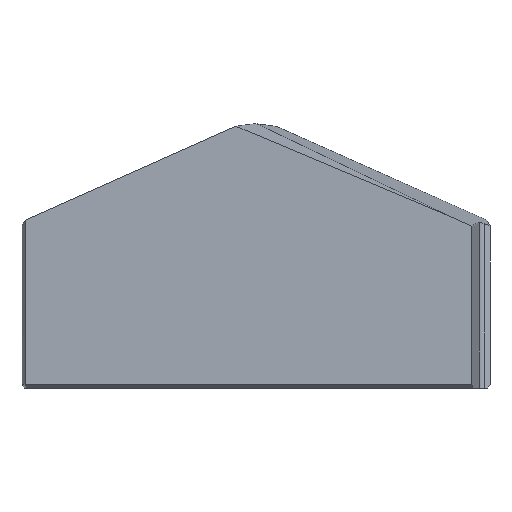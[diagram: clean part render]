
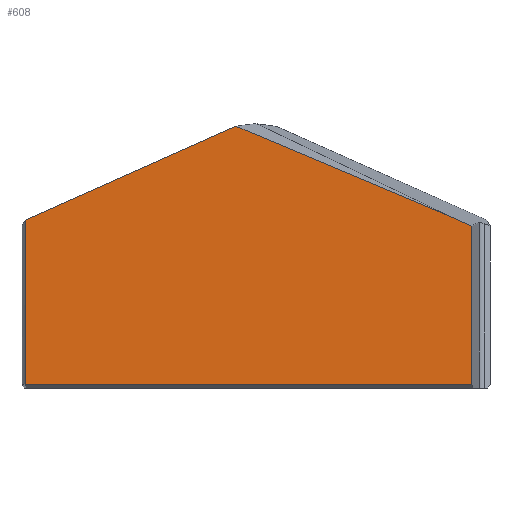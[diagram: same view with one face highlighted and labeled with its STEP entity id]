
A CAD part, top view. The second image highlights one B-rep face of the part: STEP entity #608.
In plain terms, the highlighted planar face has unit normal (0, 0, 1).
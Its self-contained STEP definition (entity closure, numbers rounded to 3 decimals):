
#2 = LINE ( 'NONE', #262, #24 ) ;
#3 = LINE ( 'NONE', #440, #99 ) ;
#5 = ORIENTED_EDGE ( 'NONE', *, *, #302, .T. ) ;
#12 = ORIENTED_EDGE ( 'NONE', *, *, #190, .T. ) ;
#19 = VECTOR ( 'NONE', #31, 1000. ) ;
#22 = VERTEX_POINT ( 'NONE', #493 ) ;
#24 = VECTOR ( 'NONE', #405, 1000. ) ;
#31 = DIRECTION ( 'NONE',  ( -0.922, 0.388, 0. ) ) ;
#40 = CARTESIAN_POINT ( 'NONE',  ( -17.972, 13.088, 6.4 ) ) ;
#46 = EDGE_CURVE ( 'NONE', #22, #73, #202, .T. ) ;
#49 = VECTOR ( 'NONE', #367, 1000. ) ;
#53 = CARTESIAN_POINT ( 'NONE',  ( -17.972, 0.3, 6.4 ) ) ;
#55 = CARTESIAN_POINT ( 'NONE',  ( -17.966, 0.289, 6.4 ) ) ;
#59 = ORIENTED_EDGE ( 'NONE', *, *, #419, .T. ) ;
#73 = VERTEX_POINT ( 'NONE', #40 ) ;
#97 = DIRECTION ( 'NONE',  ( 1., 0., 0. ) ) ;
#99 = VECTOR ( 'NONE', #632, 1000. ) ;
#114 = CARTESIAN_POINT ( 'NONE',  ( 15.004, 13.425, 6.4 ) ) ;
#190 = EDGE_CURVE ( 'NONE', #633, #613, #329, .T. ) ;
#201 = CARTESIAN_POINT ( 'NONE',  ( -17.97, 0.296, 6.4 ) ) ;
#202 = LINE ( 'NONE', #637, #429 ) ;
#210 = CARTESIAN_POINT ( 'NONE',  ( 0., 0., 6.4 ) ) ;
#219 = EDGE_CURVE ( 'NONE', #378, #633, #559, .T. ) ;
#242 = LINE ( 'NONE', #314, #49 ) ;
#248 = EDGE_LOOP ( 'NONE', ( #59, #5, #439, #295, #500, #12, #445 ) ) ;
#262 = CARTESIAN_POINT ( 'NONE',  ( 16.805, 0., 6.4 ) ) ;
#278 = CARTESIAN_POINT ( 'NONE',  ( 16.805, 12.623, 6.4 ) ) ;
#283 = LINE ( 'NONE', #388, #19 ) ;
#286 = CARTESIAN_POINT ( 'NONE',  ( -17.972, 0.3, 6.4 ) ) ;
#295 = ORIENTED_EDGE ( 'NONE', *, *, #560, .F. ) ;
#300 = CARTESIAN_POINT ( 'NONE',  ( 17.796, 0.289, 6.4 ) ) ;
#301 = VECTOR ( 'NONE', #97, 1000. ) ;
#302 = EDGE_CURVE ( 'NONE', #474, #22, #283, .T. ) ;
#311 = DIRECTION ( 'NONE',  ( 0., 0., 1. ) ) ;
#314 = CARTESIAN_POINT ( 'NONE',  ( -17.972, 0., 6.4 ) ) ;
#329 = LINE ( 'NONE', #300, #301 ) ;
#367 = DIRECTION ( 'NONE',  ( 0., 1., 0. ) ) ;
#368 = VERTEX_POINT ( 'NONE', #278 ) ;
#378 = VERTEX_POINT ( 'NONE', #286 ) ;
#388 = CARTESIAN_POINT ( 'NONE',  ( 7.057, 16.769, 6.4 ) ) ;
#401 = DIRECTION ( 'NONE',  ( -0.914, -0.407, 0. ) ) ;
#405 = DIRECTION ( 'NONE',  ( 0., 1., 0. ) ) ;
#419 = EDGE_CURVE ( 'NONE', #368, #474, #3, .T. ) ;
#429 = VECTOR ( 'NONE', #401, 1000. ) ;
#439 = ORIENTED_EDGE ( 'NONE', *, *, #46, .T. ) ;
#440 = CARTESIAN_POINT ( 'NONE',  ( 7.471, 16.779, 6.4 ) ) ;
#445 = ORIENTED_EDGE ( 'NONE', *, *, #624, .T. ) ;
#446 = CARTESIAN_POINT ( 'NONE',  ( -17.968, 0.292, 6.4 ) ) ;
#474 = VERTEX_POINT ( 'NONE', #114 ) ;
#493 = CARTESIAN_POINT ( 'NONE',  ( -1.56, 20.396, 6.4 ) ) ;
#498 = PLANE ( 'NONE',  #544 ) ;
#500 = ORIENTED_EDGE ( 'NONE', *, *, #219, .T. ) ;
#529 = CARTESIAN_POINT ( 'NONE',  ( -17.966, 0.289, 6.4 ) ) ;
#536 = DIRECTION ( 'NONE',  ( 1., 0., 0. ) ) ;
#544 = AXIS2_PLACEMENT_3D ( 'NONE', #210, #311, #536 ) ;
#559 = B_SPLINE_CURVE_WITH_KNOTS ( 'NONE', 3,
 ( #53, #201, #446, #529 ),
 .UNSPECIFIED., .F., .F.,
 ( 4, 4 ),
 ( 0., 0. ),
 .UNSPECIFIED. ) ;
#560 = EDGE_CURVE ( 'NONE', #378, #73, #242, .T. ) ;
#582 = FACE_OUTER_BOUND ( 'NONE', #248, .T. ) ;
#596 = CARTESIAN_POINT ( 'NONE',  ( 16.805, 0.289, 6.4 ) ) ;
#608 = ADVANCED_FACE ( 'NONE', ( #582 ), #498, .T. ) ;
#613 = VERTEX_POINT ( 'NONE', #596 ) ;
#624 = EDGE_CURVE ( 'NONE', #613, #368, #2, .T. ) ;
#632 = DIRECTION ( 'NONE',  ( -0.914, 0.407, 0. ) ) ;
#633 = VERTEX_POINT ( 'NONE', #55 ) ;
#637 = CARTESIAN_POINT ( 'NONE',  ( 0., 21.09, 6.4 ) ) ;
